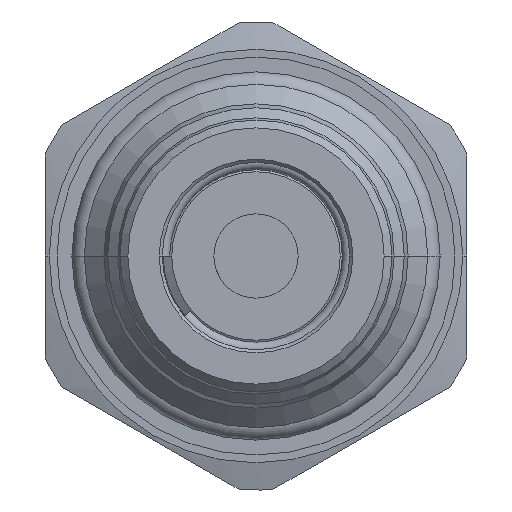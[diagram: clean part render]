
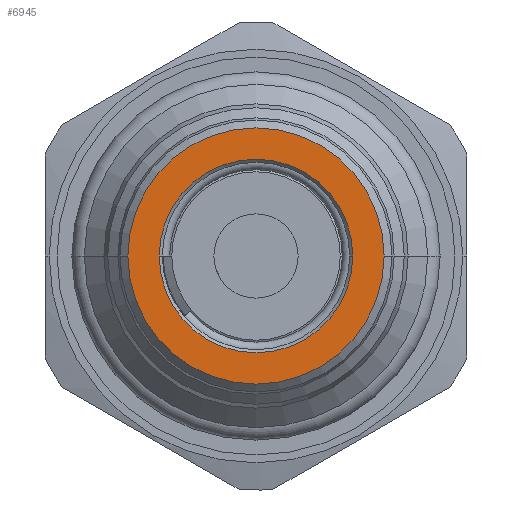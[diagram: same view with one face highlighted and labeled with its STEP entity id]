
A CAD part, left-side view. The second image highlights one B-rep face of the part: STEP entity #6945.
In plain terms, the highlighted planar face has unit normal (-1, 0, 0).
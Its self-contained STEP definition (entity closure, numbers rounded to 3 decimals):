
#3023=CARTESIAN_POINT('',(-47.,0.,0.));
#3024=DIRECTION('',(-1.,0.,0.));
#3025=DIRECTION('',(0.,1.,0.));
#3026=AXIS2_PLACEMENT_3D('',#3023,#3024,#3025);
#3031=CARTESIAN_POINT('',(-47.,0.,0.));
#3032=DIRECTION('',(1.,0.,0.));
#3033=DIRECTION('',(0.,1.,0.));
#3034=AXIS2_PLACEMENT_3D('',#3031,#3032,#3033);
#3039=CARTESIAN_POINT('',(-47.,0.,0.));
#3040=DIRECTION('',(1.,0.,0.));
#3041=DIRECTION('',(0.,-1.,0.));
#3042=AXIS2_PLACEMENT_3D('',#3039,#3040,#3041);
#3047=CARTESIAN_POINT('',(-47.,0.,0.));
#3048=DIRECTION('',(1.,0.,0.));
#3049=DIRECTION('',(0.,1.,0.));
#3050=AXIS2_PLACEMENT_3D('',#3047,#3048,#3049);
#4892=CARTESIAN_POINT('',(-47.,8.21,0.));
#4894=VERTEX_POINT('',#4892);
#4915=CARTESIAN_POINT('',(-47.,-8.21,0.));
#4916=VERTEX_POINT('',#4915);
#4985=CARTESIAN_POINT('',(-47.,-6.2,0.));
#4986=CARTESIAN_POINT('',(-47.,6.2,0.));
#4987=VERTEX_POINT('',#4985);
#4988=VERTEX_POINT('',#4986);
#6930=CARTESIAN_POINT('',(-47.,0.,0.));
#6931=DIRECTION('',(1.,0.,0.));
#6932=DIRECTION('',(0.,-1.,0.));
#6933=AXIS2_PLACEMENT_3D('',#6930,#6931,#6932);
#6934=PLANE('',#6933);
#6935=ORIENTED_EDGE('',*,*,#6909,.F.);
#6936=ORIENTED_EDGE('',*,*,#6925,.T.);
#6937=EDGE_LOOP('',(#6935,#6936));
#6938=FACE_OUTER_BOUND('',#6937,.F.);
#6940=ORIENTED_EDGE('',*,*,#6939,.F.);
#6942=ORIENTED_EDGE('',*,*,#6941,.F.);
#6943=EDGE_LOOP('',(#6940,#6942));
#6944=FACE_BOUND('',#6943,.F.);
#3027=CIRCLE('',#3026,8.21);
#3035=CIRCLE('',#3034,8.21);
#3043=CIRCLE('',#3042,6.2);
#3051=CIRCLE('',#3050,6.2);
#6909=EDGE_CURVE('',#4894,#4916,#3027,.T.);
#6925=EDGE_CURVE('',#4894,#4916,#3035,.T.);
#6939=EDGE_CURVE('',#4987,#4988,#3043,.T.);
#6941=EDGE_CURVE('',#4988,#4987,#3051,.T.);
#6945=ADVANCED_FACE('',(#6938,#6944),#6934,.F.);
